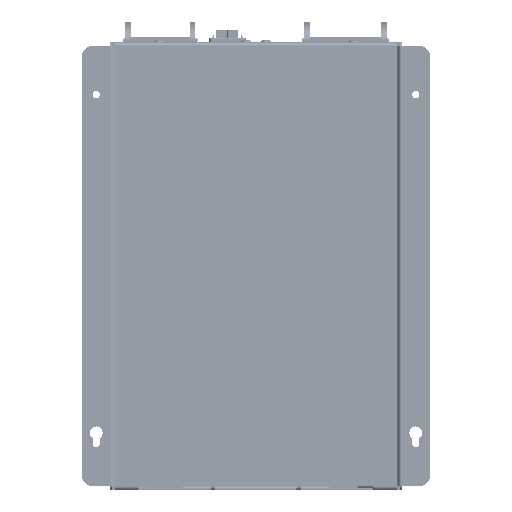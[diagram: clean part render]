
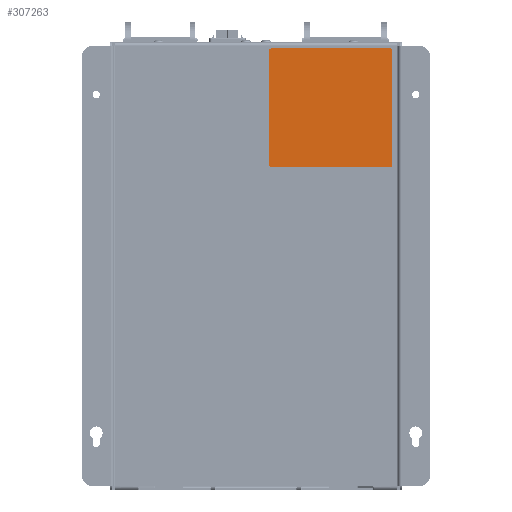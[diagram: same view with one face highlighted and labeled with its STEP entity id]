
A CAD part, front view. The second image highlights one B-rep face of the part: STEP entity #307263.
In plain terms, the highlighted planar face has unit normal (0, -1, 0) as drawn and (0, 0, 1) by its records, which use the part's own axes.
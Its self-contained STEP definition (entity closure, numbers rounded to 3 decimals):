
#11822 = CARTESIAN_POINT ( 'NONE',  ( -50., 48.5, 0.06 ) ) ;
#12343 = EDGE_CURVE ( 'NONE', #426067, #116504, #488255, .T. ) ;
#18322 = VERTEX_POINT ( 'NONE', #256988 ) ;
#20829 = ORIENTED_EDGE ( 'NONE', *, *, #12343, .T. ) ;
#24920 = DIRECTION ( 'NONE',  ( 1., 0., 0. ) ) ;
#35054 = DIRECTION ( 'NONE',  ( 0., -1., 0. ) ) ;
#43248 = PLANE ( 'NONE',  #480998 ) ;
#92021 = DIRECTION ( 'NONE',  ( 1., 0., 0. ) ) ;
#97621 = LINE ( 'NONE', #518924, #368611 ) ;
#112297 = ORIENTED_EDGE ( 'NONE', *, *, #165578, .T. ) ;
#116504 = VERTEX_POINT ( 'NONE', #119748 ) ;
#119098 = VERTEX_POINT ( 'NONE', #530908 ) ;
#119748 = CARTESIAN_POINT ( 'NONE',  ( -49., -48.5, 0.06 ) ) ;
#131009 = DIRECTION ( 'NONE',  ( 1., 0., 0. ) ) ;
#146275 = CARTESIAN_POINT ( 'NONE',  ( 49., 47.5, 0.06 ) ) ;
#150826 = AXIS2_PLACEMENT_3D ( 'NONE', #274959, #382773, #375940 ) ;
#165548 = AXIS2_PLACEMENT_3D ( 'NONE', #350255, #461574, #131009 ) ;
#165578 = EDGE_CURVE ( 'NONE', #119098, #426067, #97621, .T. ) ;
#174317 = CIRCLE ( 'NONE', #597174, 1. ) ;
#178933 = ORIENTED_EDGE ( 'NONE', *, *, #637545, .T. ) ;
#180418 = VERTEX_POINT ( 'NONE', #387556 ) ;
#192949 = CARTESIAN_POINT ( 'NONE',  ( 0., 0., 0.06 ) ) ;
#196821 = CARTESIAN_POINT ( 'NONE',  ( -50., -47.5, 0.06 ) ) ;
#201313 = CARTESIAN_POINT ( 'NONE',  ( -49., 48.5, 0.06 ) ) ;
#230349 = LINE ( 'NONE', #387066, #426952 ) ;
#256988 = CARTESIAN_POINT ( 'NONE',  ( 49., 48.5, 0.06 ) ) ;
#264550 = DIRECTION ( 'NONE',  ( 1., 0., 0. ) ) ;
#271378 = DIRECTION ( 'NONE',  ( 0., 0., 1. ) ) ;
#274959 = CARTESIAN_POINT ( 'NONE',  ( -49., 47.5, 0.06 ) ) ;
#279534 = CIRCLE ( 'NONE', #546403, 1. ) ;
#297293 = VERTEX_POINT ( 'NONE', #201313 ) ;
#301531 = EDGE_CURVE ( 'NONE', #638835, #180418, #464939, .T. ) ;
#307263 = ADVANCED_FACE ( 'NONE', ( #627756 ), #43248, .T. ) ;
#317566 = EDGE_LOOP ( 'NONE', ( #505693, #637160, #470763, #651891, #178933, #547031, #112297, #20829 ) ) ;
#340966 = VERTEX_POINT ( 'NONE', #385937 ) ;
#341666 = CARTESIAN_POINT ( 'NONE',  ( 50., -47.5, 0.06 ) ) ;
#350255 = CARTESIAN_POINT ( 'NONE',  ( -49., -47.5, 0.06 ) ) ;
#368611 = VECTOR ( 'NONE', #35054, 1000. ) ;
#375940 = DIRECTION ( 'NONE',  ( 1., 0., 0. ) ) ;
#382773 = DIRECTION ( 'NONE',  ( 0., 0., 1. ) ) ;
#385937 = CARTESIAN_POINT ( 'NONE',  ( 49., -48.5, 0.06 ) ) ;
#387066 = CARTESIAN_POINT ( 'NONE',  ( -50., -48.5, 0.06 ) ) ;
#387556 = CARTESIAN_POINT ( 'NONE',  ( 50., 47.5, 0.06 ) ) ;
#409266 = DIRECTION ( 'NONE',  ( 0., 1., 0. ) ) ;
#426067 = VERTEX_POINT ( 'NONE', #196821 ) ;
#426808 = CARTESIAN_POINT ( 'NONE',  ( 49., -47.5, 0.06 ) ) ;
#426952 = VECTOR ( 'NONE', #24920, 1000. ) ;
#429663 = DIRECTION ( 'NONE',  ( -1., 0., 0. ) ) ;
#436526 = LINE ( 'NONE', #11822, #497124 ) ;
#449481 = CIRCLE ( 'NONE', #150826, 1. ) ;
#461574 = DIRECTION ( 'NONE',  ( 0., 0., 1. ) ) ;
#464939 = LINE ( 'NONE', #611171, #554695 ) ;
#470763 = ORIENTED_EDGE ( 'NONE', *, *, #301531, .T. ) ;
#472290 = DIRECTION ( 'NONE',  ( 0., 0., 1. ) ) ;
#475305 = EDGE_CURVE ( 'NONE', #297293, #119098, #449481, .T. ) ;
#480998 = AXIS2_PLACEMENT_3D ( 'NONE', #192949, #669766, #92021 ) ;
#488255 = CIRCLE ( 'NONE', #165548, 1. ) ;
#497124 = VECTOR ( 'NONE', #429663, 1000. ) ;
#505693 = ORIENTED_EDGE ( 'NONE', *, *, #667238, .T. ) ;
#518924 = CARTESIAN_POINT ( 'NONE',  ( -50., 48.5, 0.06 ) ) ;
#521458 = EDGE_CURVE ( 'NONE', #180418, #18322, #279534, .T. ) ;
#530908 = CARTESIAN_POINT ( 'NONE',  ( -50., 47.5, 0.06 ) ) ;
#531405 = DIRECTION ( 'NONE',  ( 1., 0., 0. ) ) ;
#545623 = EDGE_CURVE ( 'NONE', #340966, #638835, #174317, .T. ) ;
#546403 = AXIS2_PLACEMENT_3D ( 'NONE', #146275, #271378, #264550 ) ;
#547031 = ORIENTED_EDGE ( 'NONE', *, *, #475305, .T. ) ;
#554695 = VECTOR ( 'NONE', #409266, 1000. ) ;
#597174 = AXIS2_PLACEMENT_3D ( 'NONE', #426808, #472290, #531405 ) ;
#611171 = CARTESIAN_POINT ( 'NONE',  ( 50., 48.5, 0.06 ) ) ;
#627756 = FACE_OUTER_BOUND ( 'NONE', #317566, .T. ) ;
#637160 = ORIENTED_EDGE ( 'NONE', *, *, #545623, .T. ) ;
#637545 = EDGE_CURVE ( 'NONE', #18322, #297293, #436526, .T. ) ;
#638835 = VERTEX_POINT ( 'NONE', #341666 ) ;
#651891 = ORIENTED_EDGE ( 'NONE', *, *, #521458, .T. ) ;
#667238 = EDGE_CURVE ( 'NONE', #116504, #340966, #230349, .T. ) ;
#669766 = DIRECTION ( 'NONE',  ( 0., 0., 1. ) ) ;
